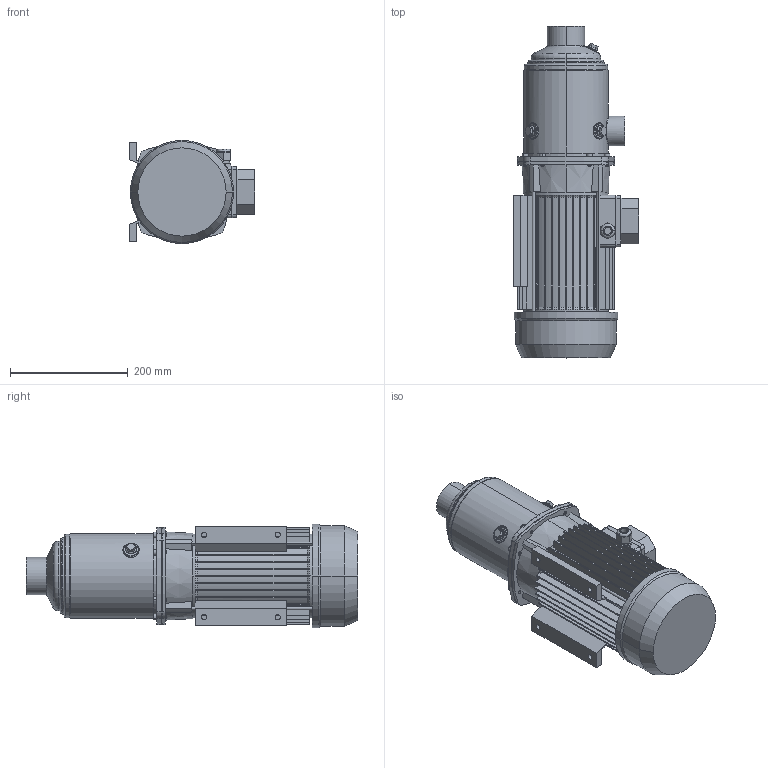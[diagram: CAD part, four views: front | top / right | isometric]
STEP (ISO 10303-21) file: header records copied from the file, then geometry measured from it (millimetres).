
FILE_DESCRIPTION((''),'2;1');
FILE_NAME('MATRIX_18-4T_3_IE3_ASM','2018-06-01T',('rosa'),('"Ebara Pumps Europe +39.444.706811"'),'PRO/ENGINEER BY PARAMETRIC TECHNOLOGY CORPORATION, 2012130','PRO/ENGINEER BY PARAMETRIC TECHNOLOGY CORPORATION, 2012130','');
FILE_SCHEMA(('AUTOMOTIVE_DESIGN { 1 0 10303 214 1 1 1 1 }'));
Length unit declared in the file: millimetre
Products named in the file (4): CORPO_POMPA_MATRIX_18-4; SUPPORTO_MATRIX_MEC_90; MEC_90X140_IE2_ZAMPATO; MATRIX_18-4T_3_IE3_ASM
Assembly tree (3 placements, depth 2):
  MATRIX_18-4T_3_IE3_ASM
    CORPO_POMPA_MATRIX_18-4
    SUPPORTO_MATRIX_MEC_90
    MEC_90X140_IE2_ZAMPATO
Bounding box: 214 x 564.3 x 175.6 mm (x, y, z)
Volume: 6750556.4 mm3; surface area: 750078.7 mm2
Topology: 3 solids, 3 shells, 664 faces, 1601 edges, 987 vertices
Faces by surface type: plane 343, cylinder 176, cone 101, torus 23, bspline 20, sphere 1
Entity records: 26409 total; most frequent: CARTESIAN_POINT 5373, DIRECTION 3362, ORIENTED_EDGE 3202, PRESENTATION_STYLE_ASSIGNMENT 1604, STYLED_ITEM 1604, CURVE_STYLE 1601, EDGE_CURVE 1601, AXIS2_PLACEMENT_3D 1294
